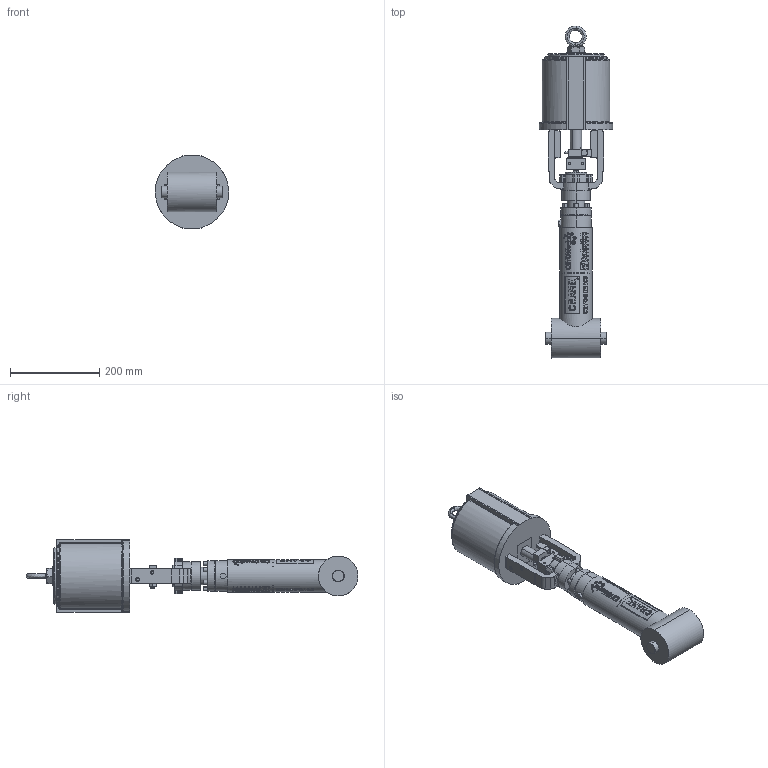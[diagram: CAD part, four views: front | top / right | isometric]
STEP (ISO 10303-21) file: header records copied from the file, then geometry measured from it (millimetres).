
FILE_DESCRIPTION (( 'STEP AP203' ), '1' );
FILE_NAME ('0.75IN T-PATTERN PNEUMATIC CRANE BELLOWS SEAL VALVE.step', '2025-12-17T20:04:55', ( '' ), ( '' ), 'SwSTEP 2.0', 'SolidWorks 2023', '' );
FILE_SCHEMA (( 'CONFIG_CONTROL_DESIGN' ));
Products named in the file (1): 0.75IN T-PATTERN PNEUMATIC CRANE BELLOWS SEAL VALVE
Bounding box: 165.01 x 745.88 x 163.58 mm (x, y, z)
Surface area: 333834.9 mm2 (no closed solid volume)
Topology: 0 solids, 3 shells, 2270 faces, 5940 edges, 3783 vertices
Faces by surface type: plane 971, cylinder 792, bspline 383, torus 70, cone 48, sphere 6
Full cylindrical faces by diameter (mm): 1.195 x2, 1.309 x2, 1.422 x2, 1.631 x2, 1.842 x2, 2.373 x2, 2.456 x2, 2.727 x2, 2.906 x2, 3.046 x2, 3.207 x2, 3.658 x2, 4.941 x2, 6.104 x2, 7.386 x2, 8.599 x2, 73.025 x1
Entity records: 424363 total; most frequent: CARTESIAN_POINT 378977, ORIENTED_EDGE 11740, DIRECTION 5972, EDGE_CURVE 5872, VERTEX_POINT 3777, B_SPLINE_CURVE_WITH_KNOTS 2957, EDGE_LOOP 2552, FACE_OUTER_BOUND 2319
